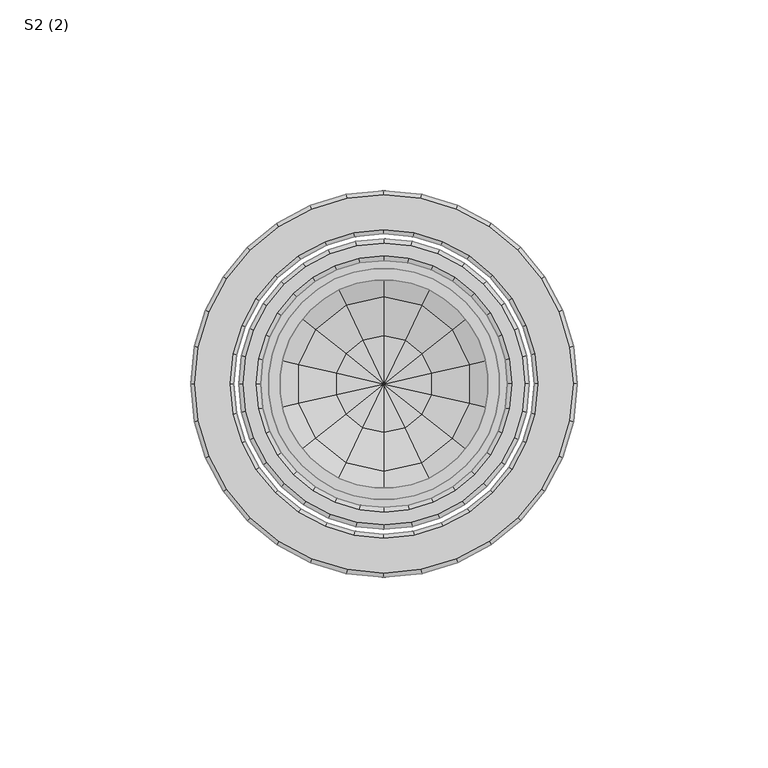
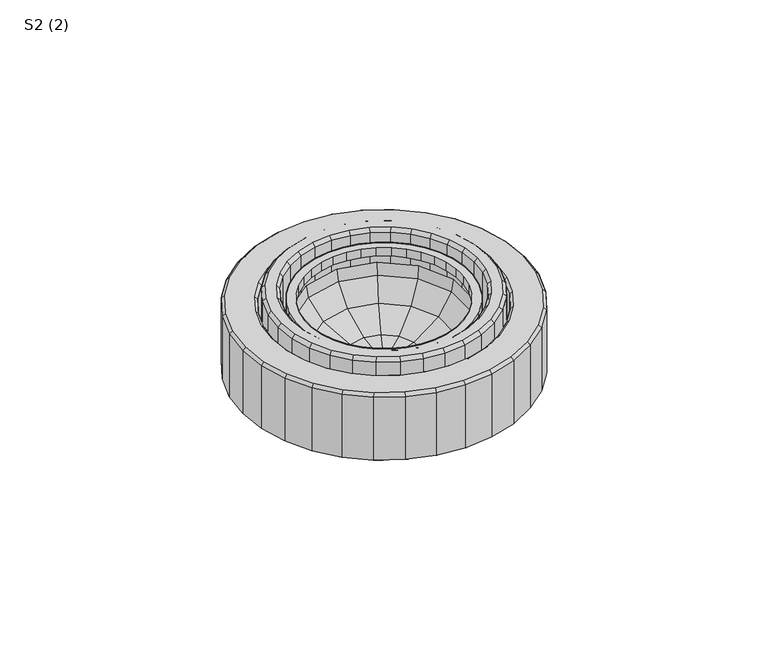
"""IFC4 building model written with IfcOpenShell, lengths in millimetres: light fixture geometry, S2 (2) : نور وابسته به سطح مخروط."""

from ifc_helpers import new_model, si_unit, origin, place, context, project, spatial, triangles, source, transform, mapped, element, save


def s2_2_7ed8d57b(model_context):
    return source(origin(), model_context, "Body", "Tessellation", [
        triangles([(30.2889727, -2.6496484, 15.3348614), (30.2889727, 1e-07, 15.3348614), (30.2889727, 1e-07, 18.4576673), (30.2889727, -2.6496484, 18.4576673), (29.3681484, -7.868873, 15.3348614), (29.3681484, -7.868873, 18.4576673), (27.5556137, -12.8478824, 15.3348614), (27.5556137, -12.8478824, 18.4576673), (24.9023263, -17.4374519, 15.3348614), (24.9023263, -17.4374519, 18.4576673), (21.5029146, -21.4956378, 15.3348614), (21.5029146, -21.4956378, 18.4576673), (17.4410903, -24.9023263, 15.3348614), (17.4410903, -24.9023263, 18.4576673), (12.8515217, -27.551977, 15.3348614), (12.8515217, -27.551977, 18.4576673), (7.8725114, -29.36451, 15.3348614), (7.8725114, -29.36451, 18.4576673), (2.6532866, -30.2853343, 15.3348614), (2.6532866, -30.2853343, 18.4576673), (-2.6460102, -30.2853343, 15.3348614), (-2.6460102, -30.2853343, 18.4576673), (-7.8688747, -29.36451, 15.3348614), (-7.8688747, -29.36451, 18.4576673), (-12.8478841, -27.551977, 15.3348614), (-12.8478841, -27.551977, 18.4576673), (-17.4338151, -24.9023263, 15.3348614), (-17.4338151, -24.9023263, 18.4576673), (-21.4992762, -21.4956378, 15.3348614), (-21.4992762, -21.4956378, 18.4576673), (-24.8986879, -17.4374519, 15.3348614), (-24.8986879, -17.4374519, 18.4576673), (-27.5519786, -12.8478824, 15.3348614), (-27.5519786, -12.8478824, 18.4576673), (-29.3645116, -7.868873, 15.3348614), (-29.3645116, -7.868873, 18.4576673), (-30.2853359, -2.6496484, 15.3348614), (-30.2853359, -2.6496484, 18.4576673), (-30.2853359, 1e-07, 15.3348614), (-30.2853359, 1e-07, 18.4576673), (-30.2853359, 2.6496486, 15.3348614), (-30.2853359, 2.6496486, 18.4576673), (-29.3645116, 7.868873, 15.3348614), (-29.3645116, 7.868873, 18.4576673), (-27.5519786, 12.8478824, 15.3348614), (-27.5519786, 12.8478824, 18.4576673), (-24.8986879, 17.4374519, 15.3348614), (-24.8986879, 17.4374519, 18.4576673), (-21.4992762, 21.4992746, 15.3348614), (-21.4992762, 21.4992746, 18.4576673), (-17.4338151, 24.905968, 15.3348614), (-17.4338151, 24.905968, 18.4576673), (-12.8478841, 27.5556154, 15.3348614), (-12.8478841, 27.5556154, 18.4576673), (-7.8688747, 29.3681501, 15.3348614), (-7.8688747, 29.3681501, 18.4576673), (-2.6460102, 30.2853343, 15.3348614), (-2.6460102, 30.2853343, 18.4576673), (2.6532866, 30.2853343, 15.3348614), (2.6532866, 30.2853343, 18.4576673), (7.8725114, 29.3681501, 15.3348614), (7.8725114, 29.3681501, 18.4576673), (12.8515217, 27.5556154, 15.3348614), (12.8515217, 27.5556154, 18.4576673), (17.4410903, 24.905968, 15.3348614), (17.4410903, 24.905968, 18.4576673), (21.5029146, 21.4992746, 15.3348614), (21.5029146, 21.4992746, 18.4576673), (24.9023263, 17.4374519, 15.3348614), (24.9023263, 17.4374519, 18.4576673), (27.5556137, 12.8478824, 15.3348614), (27.5556137, 12.8478824, 18.4576673), (29.3681484, 7.868873, 15.3348614), (29.3681484, 7.868873, 18.4576673), (30.2889727, 2.6496486, 15.3348614), (30.2889727, 2.6496486, 18.4576673), (-27.2535263, -2.3839556, 15.3348614), (-27.2535263, 1e-07, 15.3348614), (-27.2535263, 1e-07, 18.4576673), (-27.2535263, -2.3839556, 18.4576673), (-26.4273338, -7.0827138, 15.3348614), (-26.4273338, -7.0827138, 18.4576673), (-24.7967793, -11.5630945, 15.3348614), (-24.7967793, -11.5630945, 18.4576673), (-22.4091853, -15.6940718, 15.3348614), (-22.4091853, -15.6940718, 18.4576673), (-19.3446183, -19.3482567, 15.3348614), (-19.3446183, -19.3482567, 18.4576673), (-15.6940718, -22.4128237, 15.3348614), (-15.6940718, -22.4128237, 18.4576673), (-11.5630962, -24.7967776, 15.3348614), (-11.5630962, -24.7967776, 18.4576673), (-7.0790758, -26.4273321, 15.3348614), (-7.0790758, -26.4273321, 18.4576673), (-2.383957, -27.2571663, 15.3348614), (-2.383957, -27.2571663, 18.4576673), (2.3875938, -27.2571663, 15.3348614), (2.3875938, -27.2571663, 18.4576673), (7.0863522, -26.4273321, 15.3348614), (7.0863522, -26.4273321, 18.4576673), (11.5630937, -24.7967776, 15.3348614), (11.5630937, -24.7967776, 18.4576673), (15.6977103, -22.4128237, 15.3348614), (15.6977103, -22.4128237, 18.4576673), (19.3518952, -19.3482567, 15.3348614), (19.3518952, -19.3482567, 18.4576673), (22.4164604, -15.6940718, 15.3348614), (22.4164604, -15.6940718, 18.4576673), (24.800416, -11.5630945, 15.3348614), (24.800416, -11.5630945, 18.4576673), (26.4273305, -7.0827138, 15.3348614), (26.4273305, -7.0827138, 18.4576673), (27.2608048, -2.3839556, 15.3348614), (27.2608048, -2.3839556, 18.4576673), (27.2608048, 1e-07, 15.3348614), (27.2608048, 1e-07, 18.4576673), (27.2608048, 2.3839556, 15.3348614), (27.2608048, 2.3839556, 18.4576673), (26.4273305, 7.0827138, 15.3348614), (26.4273305, 7.0827138, 18.4576673), (24.800416, 11.5630945, 15.3348614), (24.800416, 11.5630945, 18.4576673), (22.4164604, 15.6940718, 15.3348614), (22.4164604, 15.6940718, 18.4576673), (19.3518952, 19.3482567, 15.3348614), (19.3518952, 19.3482567, 18.4576673), (15.6977103, 22.4128237, 15.3348614), (15.6977103, 22.4128237, 18.4576673), (11.5630937, 24.8004177, 15.3348614), (11.5630937, 24.8004177, 18.4576673), (7.0863522, 26.4309705, 15.3348614), (7.0863522, 26.4309705, 18.4576673), (2.3875938, 27.2571663, 15.3348614), (2.3875938, 27.2571663, 18.4576673), (-2.383957, 27.2571663, 15.3348614), (-2.383957, 27.2571663, 18.4576673), (-7.0790758, 26.4309705, 15.3348614), (-7.0790758, 26.4309705, 18.4576673), (-11.5630962, 24.8004177, 15.3348614), (-11.5630962, 24.8004177, 18.4576673), (-15.6940718, 22.4128237, 15.3348614), (-15.6940718, 22.4128237, 18.4576673), (-19.3446183, 19.3482567, 15.3348614), (-19.3446183, 19.3482567, 18.4576673), (-22.4091853, 15.6940718, 15.3348614), (-22.4091853, 15.6940718, 18.4576673), (-24.7967793, 11.5630945, 15.3348614), (-24.7967793, 11.5630945, 18.4576673), (-26.4273338, 7.0827138, 15.3348614), (-26.4273338, 7.0827138, 18.4576673), (-27.2535263, 2.3839556, 15.3348614), (-27.2535263, 2.3839556, 18.4576673), (0.0036383, -38.1323743, 20.7179947), (0.0036383, -38.1323743, -8.0242621), (7.4430357, -37.400807, -8.0242621), (7.4430357, -37.400807, 20.7179947), (0.0036383, -32.3708408, -8.0242621), (0.0036383, -32.3708408, 20.7179947), (6.3183913, -31.7484656, 20.7179947), (6.3183913, -31.7484656, -8.0242621), (0.0036383, -33.6010377, 21.9445139), (0.0036383, -36.9058176, 21.9445139), (7.2028203, -36.1960907, 21.9445139), (6.5586063, -32.956822, 21.9445139), (14.5949025, -35.2315889, -8.0242621), (14.5949025, -35.2315889, 20.7179947), (12.3892886, -29.9068137, 20.7179947), (12.3892886, -29.9068137, -8.0242621), (14.1253902, -34.0960238, 21.9445139), (12.8624402, -31.0423787, 21.9445139), (21.189907, -31.7084315, -8.0242621), (21.189907, -31.7084315, 20.7179947), (17.9870341, -26.9150398, 20.7179947), (17.9870341, -26.9150398, -8.0242621), (20.5056556, -30.6856953, 21.9445139), (18.6712855, -27.937776, 21.9445139), (26.9659941, -26.9659958, -8.0242621), (26.9659941, -26.9659958, 20.7179947), (22.8932529, -22.8896128, 20.7179947), (22.8932529, -22.8896128, -8.0242621), (26.0961242, -26.0961258, 21.9445139), (23.7631229, -23.7594861, 21.9445139), (31.7084298, -21.1862669, -8.0242621), (31.7084298, -21.1862669, 20.7179947), (26.9186799, -17.9833973, 20.7179947), (26.9186799, -17.9833973, -8.0242621), (30.6856936, -20.5020188, 21.9445139), (27.9414145, -18.6676471, 21.9445139), (35.2352273, -14.5949042, -8.0242621), (35.2352273, -14.5949042, 20.7179947), (29.9104521, -12.3892903, 20.7179947), (29.9104521, -12.3892903, -8.0242621), (34.0960222, -14.1217534, 21.9445139), (31.0460172, -12.8588018, 21.9445139), (37.4044421, -7.4393973, -8.0242621), (37.4044421, -7.4393973, 20.7179947), (31.752104, -6.3147529, 20.7179947), (31.752104, -6.3147529, -8.0242621), (36.196089, -7.1991819, 21.9445139), (32.9568204, -6.5549679, 21.9445139), (38.1360061, 1e-07, -8.0242621), (38.1360061, 1e-07, 20.7179947), (32.3744792, 1e-07, 20.7179947), (32.3744792, 1e-07, -8.0242621), (36.9058192, 1e-07, 21.9445139), (33.6046761, 1e-07, 21.9445139), (37.4044421, 7.4393973, -8.0242621), (37.4044421, 7.4393973, 20.7179947), (31.752104, 6.3147529, 20.7179947), (31.752104, 6.3147529, -8.0242621), (36.196089, 7.1991819, 21.9445139), (32.9568204, 6.5549679, 21.9445139), (35.2352273, 14.5949042, -8.0242621), (35.2352273, 14.5949042, 20.7179947), (29.9104521, 12.3892903, 20.7179947), (29.9104521, 12.3892903, -8.0242621), (34.0960222, 14.1217534, 21.9445139), (31.0460172, 12.8588018, 21.9445139), (31.7084298, 21.1862669, -8.0242621), (31.7084298, 21.1862669, 20.7179947), (26.9186799, 17.9833973, 20.7179947), (26.9186799, 17.9833973, -8.0242621), (30.6856936, 20.5020188, 21.9445139), (27.9414145, 18.6676471, 21.9445139), (26.9659941, 26.9659958, -8.0242621), (26.9659941, 26.9659958, 20.7179947), (22.8932529, 22.8896128, 20.7179947), (22.8932529, 22.8896128, -8.0242621), (26.0961242, 26.0961258, 21.9445139), (23.7631229, 23.7594861, 21.9445139), (21.189907, 31.7084315, -8.0242621), (21.189907, 31.7084315, 20.7179947), (17.9870341, 26.9150398, 20.7179947), (17.9870341, 26.9150398, -8.0242621), (20.5056556, 30.6856953, 21.9445139), (18.6712855, 27.937776, 21.9445139), (14.5949025, 35.2315889, -8.0242621), (14.5949025, 35.2315889, 20.7179947), (12.3892886, 29.9068137, 20.7179947), (12.3892886, 29.9068137, -8.0242621), (14.1253902, 34.0960238, 21.9445139), (12.8624402, 31.0423787, 21.9445139), (7.4430357, 37.400807, -8.0242621), (7.4430357, 37.400807, 20.7179947), (6.3183913, 31.7484656, 20.7179947), (6.3183913, 31.7484656, -8.0242621), (7.2028203, 36.1960907, 21.9445139), (6.5586063, 32.956822, 21.9445139), (0.0036383, 38.1360078, -8.0242621), (0.0036383, 38.1360078, 20.7179947), (0.0036383, 32.3708408, 20.7179947), (0.0036383, 32.3708408, -8.0242621), (0.0036383, 36.9058176, 21.9445139), (0.0036383, 33.6010377, 21.9445139), (-7.4357589, 37.400807, -8.0242621), (-7.4357589, 37.400807, 20.7179947), (-6.3147541, 31.7484656, 20.7179947), (-6.3147541, 31.7484656, -8.0242621), (-7.1955435, 36.1960907, 21.9445139), (-6.5513303, 32.956822, 21.9445139), (-14.5912657, 35.2315889, -8.0242621), (-14.5912657, 35.2315889, 20.7179947), (-12.3856519, 29.9068137, 20.7179947), (-12.3856519, 29.9068137, -8.0242621), (-14.1217534, 34.0960238, 21.9445139), (-12.8551634, 31.0423787, 21.9445139), (-21.1826302, 31.7084315, -8.0242621), (-21.1826302, 31.7084315, 20.7179947), (-17.983399, 26.9150398, 20.7179947), (-17.983399, 26.9150398, -8.0242621), (-20.5020205, 30.6856953, 21.9445139), (-18.664007, 27.937776, 21.9445139), (-26.962359, 26.9659958, -8.0242621), (-26.962359, 26.9659958, 20.7179947), (-22.8896145, 22.8896128, 20.7179947), (-22.8896145, 22.8896128, -8.0242621), (-26.0924857, 26.0961258, 21.9445139), (-23.755846, 23.7594861, 21.9445139), (-31.7047931, 21.1862669, -8.0242621), (-31.7047931, 21.1862669, 20.7179947), (-26.9150415, 17.9833973, 20.7179947), (-26.9150415, 17.9833973, -8.0242621), (-30.6820568, 20.5020188, 21.9445139), (-27.9377777, 18.6676471, 21.9445139), (-35.2279505, 14.5949042, -8.0242621), (-35.2279505, 14.5949042, 20.7179947), (-29.9068154, 12.3892903, 20.7179947), (-29.9068154, 12.3892903, -8.0242621), (-34.0923854, 14.1217534, 21.9445139), (-31.0423804, 12.8588018, 21.9445139), (-37.4008087, 7.4393973, -8.0242621), (-37.4008087, 7.4393973, 20.7179947), (-31.7484672, 6.3147529, 20.7179947), (-31.7484672, 6.3147529, -8.0242621), (-36.1924522, 7.1991819, 21.9445139), (-32.9531836, 6.5549679, 21.9445139), (-38.132376, 1e-07, -8.0242621), (-38.132376, 1e-07, 20.7179947), (-32.3708425, 1e-07, 20.7179947), (-32.3708425, 1e-07, -8.0242621), (-36.9021792, 1e-07, 21.9445139), (-33.601036, 1e-07, 21.9445139), (-37.4008087, -7.4393973, -8.0242621), (-37.4008087, -7.4393973, 20.7179947), (-31.7484672, -6.3147529, 20.7179947), (-31.7484672, -6.3147529, -8.0242621), (-36.1924522, -7.1991819, 21.9445139), (-32.9531836, -6.5549679, 21.9445139), (-35.2279505, -14.5949042, -8.0242621), (-35.2279505, -14.5949042, 20.7179947), (-29.9068154, -12.3892903, 20.7179947), (-29.9068154, -12.3892903, -8.0242621), (-34.0923854, -14.1217534, 21.9445139), (-31.0423804, -12.8588018, 21.9445139), (-31.7047931, -21.1862669, -8.0242621), (-31.7047931, -21.1862669, 20.7179947), (-26.9150415, -17.9833973, 20.7179947), (-26.9150415, -17.9833973, -8.0242621), (-30.6820568, -20.5020188, 21.9445139), (-27.9377777, -18.6676471, 21.9445139), (-26.962359, -26.9659958, -8.0242621), (-26.962359, -26.9659958, 20.7179947), (-22.8896145, -22.8896128, 20.7179947), (-22.8896145, -22.8896128, -8.0242621), (-26.0924857, -26.0961258, 21.9445139), (-23.755846, -23.7594861, 21.9445139), (-21.1826302, -31.7084315, -8.0242621), (-21.1826302, -31.7084315, 20.7179947), (-17.983399, -26.9150398, 20.7179947), (-17.983399, -26.9150398, -8.0242621), (-20.5020205, -30.6856953, 21.9445139), (-18.664007, -27.937776, 21.9445139), (-14.5912657, -35.2315889, -8.0242621), (-14.5912657, -35.2315889, 20.7179947), (-12.3856519, -29.9068137, 20.7179947), (-12.3856519, -29.9068137, -8.0242621), (-14.1217534, -34.0960238, 21.9445139), (-12.8551634, -31.0423787, 21.9445139), (-7.4357589, -37.400807, -8.0242621), (-7.4357589, -37.400807, 20.7179947), (-6.3147541, -31.7484656, 20.7179947), (-6.3147541, -31.7484656, -8.0242621), (-7.1955435, -36.1960907, 21.9445139), (-6.5513303, -32.956822, 21.9445139), (-1.4e-06, -50.7000047, 16.2595407), (-1.4e-06, -50.7000047, -7.5), (9.8925051, -49.7282228, -7.5), (9.8925051, -49.7282228, 16.2595407), (-1.4e-06, -49.600837, -8.0242621), (-1.4e-06, -40.4035011, -8.0242621), (7.8834308, -39.6282563, -8.0242621), (9.677766, -48.6472522, -8.0242621), (-1.4e-06, -39.3407242, -6.9685173), (-1.4e-06, -39.3407242, 16.2595407), (7.6759718, -38.5873231, 16.2595407), (7.6759718, -38.5873231, -6.9685173), (-1.4e-06, -40.4035011, 17.3186176), (-1.4e-06, -49.600837, 17.3186176), (9.677766, -48.6472522, 17.3186176), (7.8834308, -39.6282563, 17.3186176), (19.4028495, -46.8419976, -7.5), (19.4028495, -46.8419976, 16.2595407), (15.4611341, -37.3280123, -8.0242621), (18.9806531, -45.8265415, -8.0242621), (15.0571363, -36.3453135, 16.2595407), (15.0571363, -36.3453135, -6.9685173), (18.9806531, -45.8265415, 17.3186176), (15.4611341, -37.3280123, 17.3186176), (28.1670688, -42.1578013, -7.5), (28.1670688, -42.1578013, 16.2595407), (22.4492177, -33.5973943, -8.0242621), (27.5556137, -41.2406138, -8.0242621), (21.8559581, -32.7129674, 16.2595407), (21.8559581, -32.7129674, -6.9685173), (27.5556137, -41.2406138, 17.3186176), (22.4492177, -33.5973943, 17.3186176), (35.8503257, -35.8503241, -7.5), (35.8503257, -35.8503241, 16.2595407), (28.5710698, -28.5710715, -8.0242621), (35.0750842, -35.0714458, -8.0242621), (27.8176654, -27.8176671, 16.2595407), (27.8176654, -27.8176671, -6.9685173), (35.0750842, -35.0714458, 17.3186176), (28.5710698, -28.5710715, 17.3186176), (42.1577997, -28.1670704, -7.5), (42.1577997, -28.1670704, 16.2595407), (33.597396, -22.4492194, -8.0242621), (41.2406122, -27.5556154, -8.0242621), (32.7129657, -21.8559597, 16.2595407), (32.7129657, -21.8559597, -6.9685173), (41.2406122, -27.5556154, 17.3186176), (33.597396, -22.4492194, 17.3186176), (46.841996, -19.4028511, -7.5), (46.841996, -19.4028511, 16.2595407), (37.3280107, -15.4611357, -8.0242621), (45.8265399, -18.9806547, -8.0242621), (36.3489519, -15.0571363, 16.2595407), (36.3489519, -15.0571363, -6.9685173), (45.8265399, -18.9806547, 17.3186176), (37.3280107, -15.4611357, 17.3186176), (49.7282212, -9.8925067, -7.5), (49.7282212, -9.8925067, 16.2595407), (39.6282547, -7.8834316, -8.0242621), (48.6472505, -9.6777676, -8.0242621), (38.5873214, -7.6759727, 16.2595407), (38.5873214, -7.6759727, -6.9685173), (48.6472505, -9.6777676, 17.3186176), (39.6282547, -7.8834316, 17.3186176), (50.7000031, 1e-07, -7.5), (50.7000031, 1e-07, 16.2595407), (40.4071395, 1e-07, -8.0242621), (49.6008354, 1e-07, -8.0242621), (39.3407258, 1e-07, 16.2595407), (39.3407258, 1e-07, -6.9685173), (49.6008354, 1e-07, 17.3186176), (40.4071395, 1e-07, 17.3186176), (49.7282212, 9.8925067, -7.5), (49.7282212, 9.8925067, 16.2595407), (39.6282547, 7.8834316, -8.0242621), (48.6472505, 9.6777676, -8.0242621), (38.5873214, 7.6759727, 16.2595407), (38.5873214, 7.6759727, -6.9685173), (48.6472505, 9.6777676, 17.3186176), (39.6282547, 7.8834316, 17.3186176), (46.841996, 19.4028511, -7.5), (46.841996, 19.4028511, 16.2595407), (37.3280107, 15.4611357, -8.0242621), (45.8265399, 18.9806547, -8.0242621), (36.3489519, 15.0571363, 16.2595407), (36.3489519, 15.0571363, -6.9685173), (45.8265399, 18.9806547, 17.3186176), (37.3280107, 15.4611357, 17.3186176), (42.1577997, 28.1670704, -7.5), (42.1577997, 28.1670704, 16.2595407), (33.597396, 22.4492194, -8.0242621), (41.2406122, 27.5556154, -8.0242621), (32.7129657, 21.8559597, 16.2595407), (32.7129657, 21.8559597, -6.9685173), (41.2406122, 27.5556154, 17.3186176), (33.597396, 22.4492194, 17.3186176), (35.8503257, 35.8503274, -7.5), (35.8503257, 35.8503274, 16.2595407), (28.5710698, 28.5710715, -8.0242621), (35.0750842, 35.0750859, -8.0242621), (27.8176654, 27.8176671, 16.2595407), (27.8176654, 27.8176671, -6.9685173), (35.0750842, 35.0750859, 17.3186176), (28.5710698, 28.5710715, 17.3186176), (28.1670688, 42.1578013, -7.5), (28.1670688, 42.1578013, 16.2595407), (22.4492177, 33.5973976, -8.0242621), (27.5556137, 41.2406138, -8.0242621), (21.8559581, 32.7129674, 16.2595407), (21.8559581, 32.7129674, -6.9685173), (27.5556137, 41.2406138, 17.3186176), (22.4492177, 33.5973976, 17.3186176), (19.4028495, 46.8419976, -7.5), (19.4028495, 46.8419976, 16.2595407), (15.4611341, 37.3316524, -8.0242621), (18.9806531, 45.8265415, -8.0242621), (15.0571363, 36.3489536, 16.2595407), (15.0571363, 36.3489536, -6.9685173), (18.9806531, 45.8265415, 17.3186176), (15.4611341, 37.3316524, 17.3186176), (9.8925051, 49.7282228, -7.5), (9.8925051, 49.7282228, 16.2595407), (7.8834308, 39.6282563, -8.0242621), (9.677766, 48.6472522, -8.0242621), (7.6759718, 38.5873231, 16.2595407), (7.6759718, 38.5873231, -6.9685173), (9.677766, 48.6472522, 17.3186176), (7.8834308, 39.6282563, 17.3186176), (-1.4e-06, 50.7000047, -7.5), (-1.4e-06, 50.7000047, 16.2595407), (-1.4e-06, 40.4071412, -8.0242621), (-1.4e-06, 49.600837, -8.0242621), (-1.4e-06, 39.3407242, 16.2595407), (-1.4e-06, 39.3407242, -6.9685173), (-1.4e-06, 49.600837, 17.3186176), (-1.4e-06, 40.4071412, 17.3186176), (-9.8925075, 49.7282228, -7.5), (-9.8925075, 49.7282228, 16.2595407), (-7.8834333, 39.6282563, -8.0242621), (-9.6777684, 48.6472522, -8.0242621), (-7.6759743, 38.5873231, 16.2595407), (-7.6759743, 38.5873231, -6.9685173), (-9.6777684, 48.6472522, 17.3186176), (-7.8834333, 39.6282563, 17.3186176), (-19.4028528, 46.8419976, -7.5), (-19.4028528, 46.8419976, 16.2595407), (-15.4611374, 37.3316524, -8.0242621), (-18.9806547, 45.8265415, -8.0242621), (-15.057138, 36.3489536, 16.2595407), (-15.057138, 36.3489536, -6.9685173), (-18.9806547, 45.8265415, 17.3186176), (-15.4611374, 37.3316524, 17.3186176), (-28.1670721, 42.1578013, -7.5), (-28.1670721, 42.1578013, 16.2595407), (-22.449221, 33.5973976, -8.0242621), (-27.555617, 41.2406138, -8.0242621), (-21.8559614, 32.7129674, 16.2595407), (-21.8559614, 32.7129674, -6.9685173), (-27.555617, 41.2406138, 17.3186176), (-22.449221, 33.5973976, 17.3186176), (-35.8503257, 35.8503274, -7.5), (-35.8503257, 35.8503274, 16.2595407), (-28.5710731, 28.5710715, -8.0242621), (-35.0750875, 35.0750859, -8.0242621), (-27.8176687, 27.8176671, 16.2595407), (-27.8176687, 27.8176671, -6.9685173), (-35.0750875, 35.0750859, 17.3186176), (-28.5710731, 28.5710715, 17.3186176), (-42.157803, 28.1670704, -7.5), (-42.157803, 28.1670704, 16.2595407), (-33.597396, 22.4492194, -8.0242621), (-41.2406155, 27.5556154, -8.0242621), (-32.712969, 21.8559597, 16.2595407), (-32.712969, 21.8559597, -6.9685173), (-41.2406155, 27.5556154, 17.3186176), (-33.597396, 22.4492194, 17.3186176), (-46.8419993, 19.4028511, -7.5), (-46.8419993, 19.4028511, 16.2595407), (-37.328014, 15.4611357, -8.0242621), (-45.8265432, 18.9806547, -8.0242621), (-36.3489552, 15.0571363, 16.2595407), (-36.3489552, 15.0571363, -6.9685173), (-45.8265432, 18.9806547, 17.3186176), (-37.328014, 15.4611357, 17.3186176), (-49.7282245, 9.8925067, -7.5), (-49.7282245, 9.8925067, 16.2595407), (-39.628258, 7.8834316, -8.0242621), (-48.6472538, 9.6777676, -8.0242621), (-38.5873247, 7.6759727, 16.2595407), (-38.5873247, 7.6759727, -6.9685173), (-48.6472538, 9.6777676, 17.3186176), (-39.628258, 7.8834316, 17.3186176), (-50.7000031, 1e-07, -7.5), (-50.7000031, 1e-07, 16.2595407), (-40.4071395, 1e-07, -8.0242621), (-49.6008387, 1e-07, -8.0242621), (-39.3407258, 1e-07, 16.2595407), (-39.3407258, 1e-07, -6.9685173), (-49.6008387, 1e-07, 17.3186176), (-40.4071395, 1e-07, 17.3186176), (-49.7282245, -9.8925067, -7.5), (-49.7282245, -9.8925067, 16.2595407), (-39.628258, -7.8834316, -8.0242621), (-48.6472538, -9.6777676, -8.0242621), (-38.5873247, -7.6759727, 16.2595407), (-38.5873247, -7.6759727, -6.9685173), (-48.6472538, -9.6777676, 17.3186176), (-39.628258, -7.8834316, 17.3186176), (-46.8419993, -19.4028511, -7.5), (-46.8419993, -19.4028511, 16.2595407), (-37.328014, -15.4611357, -8.0242621), (-45.8265432, -18.9806547, -8.0242621), (-36.3489552, -15.0571363, 16.2595407), (-36.3489552, -15.0571363, -6.9685173), (-45.8265432, -18.9806547, 17.3186176), (-37.328014, -15.4611357, 17.3186176), (-42.157803, -28.1670704, -7.5), (-42.157803, -28.1670704, 16.2595407), (-33.597396, -22.4492194, -8.0242621), (-41.2406155, -27.5556154, -8.0242621), (-32.712969, -21.8559597, 16.2595407), (-32.712969, -21.8559597, -6.9685173), (-41.2406155, -27.5556154, 17.3186176), (-33.597396, -22.4492194, 17.3186176), (-35.8503257, -35.8503241, -7.5), (-35.8503257, -35.8503241, 16.2595407), (-28.5710731, -28.5710715, -8.0242621), (-35.0750875, -35.0714458, -8.0242621), (-27.8176687, -27.8176671, 16.2595407), (-27.8176687, -27.8176671, -6.9685173), (-35.0750875, -35.0714458, 17.3186176), (-28.5710731, -28.5710715, 17.3186176), (-28.1670721, -42.1578013, -7.5), (-28.1670721, -42.1578013, 16.2595407), (-22.449221, -33.5973943, -8.0242621), (-27.555617, -41.2406138, -8.0242621), (-21.8559614, -32.7129674, 16.2595407), (-21.8559614, -32.7129674, -6.9685173), (-27.555617, -41.2406138, 17.3186176), (-22.449221, -33.5973943, 17.3186176), (-19.4028528, -46.8419976, -7.5), (-19.4028528, -46.8419976, 16.2595407), (-15.4611374, -37.3280123, -8.0242621), (-18.9806547, -45.8265415, -8.0242621), (-15.057138, -36.3453135, 16.2595407), (-15.057138, -36.3453135, -6.9685173), (-18.9806547, -45.8265415, 17.3186176), (-15.4611374, -37.3280123, 17.3186176), (-9.8925075, -49.7282228, -7.5), (-9.8925075, -49.7282228, 16.2595407), (-7.8834333, -39.6282563, -8.0242621), (-9.6777684, -48.6472522, -8.0242621), (-7.6759743, -38.5873231, 16.2595407), (-7.6759743, -38.5873231, -6.9685173), (-9.6777684, -48.6472522, 17.3186176), (-7.8834333, -39.6282563, 17.3186176)], [[1, 2, 3], [1, 3, 4], [5, 1, 4], [5, 4, 6], [7, 5, 6], [7, 6, 8], [9, 7, 8], [9, 8, 10], [11, 9, 10], [11, 10, 12], [13, 11, 12], [13, 12, 14], [15, 13, 14], [15, 14, 16], [17, 15, 16], [17, 16, 18], [19, 17, 18], [19, 18, 20], [21, 19, 20], [21, 20, 22], [23, 21, 22], [23, 22, 24], [25, 23, 24], [25, 24, 26], [27, 25, 26], [27, 26, 28], [29, 27, 28], [29, 28, 30], [31, 29, 30], [31, 30, 32], [33, 31, 32], [33, 32, 34], [35, 33, 34], [35, 34, 36], [37, 35, 36], [37, 36, 38], [39, 37, 38], [39, 38, 40], [41, 39, 40], [41, 40, 42], [43, 41, 42], [43, 42, 44], [45, 43, 44], [45, 44, 46], [47, 45, 46], [47, 46, 48], [49, 47, 48], [49, 48, 50], [51, 49, 50], [51, 50, 52], [53, 51, 52], [53, 52, 54], [55, 53, 54], [55, 54, 56], [57, 55, 56], [57, 56, 58], [59, 57, 58], [59, 58, 60], [61, 59, 60], [61, 60, 62], [63, 61, 62], [63, 62, 64], [65, 63, 64], [65, 64, 66], [67, 65, 66], [67, 66, 68], [69, 67, 68], [69, 68, 70], [71, 69, 70], [71, 70, 72], [73, 71, 72], [73, 72, 74], [75, 73, 74], [75, 74, 76], [2, 75, 76], [2, 76, 3], [77, 78, 79], [77, 79, 80], [81, 77, 80], [81, 80, 82], [83, 81, 82], [83, 82, 84], [85, 83, 84], [85, 84, 86], [87, 85, 86], [87, 86, 88], [89, 87, 88], [89, 88, 90], [91, 89, 90], [91, 90, 92], [93, 91, 92], [93, 92, 94], [95, 93, 94], [95, 94, 96], [97, 95, 96], [97, 96, 98], [99, 97, 98], [99, 98, 100], [101, 99, 100], [101, 100, 102], [103, 101, 102], [103, 102, 104], [105, 103, 104], [105, 104, 106], [107, 105, 106], [107, 106, 108], [109, 107, 108], [109, 108, 110], [111, 109, 110], [111, 110, 112], [113, 111, 112], [113, 112, 114], [115, 113, 114], [115, 114, 116], [117, 115, 116], [117, 116, 118], [119, 117, 118], [119, 118, 120], [121, 119, 120], [121, 120, 122], [123, 121, 122], [123, 122, 124], [125, 123, 124], [125, 124, 126], [127, 125, 126], [127, 126, 128], [129, 127, 128], [129, 128, 130], [131, 129, 130], [131, 130, 132], [133, 131, 132], [133, 132, 134], [135, 133, 134], [135, 134, 136], [137, 135, 136], [137, 136, 138], [139, 137, 138], [139, 138, 140], [141, 139, 140], [141, 140, 142], [143, 141, 142], [143, 142, 144], [145, 143, 144], [145, 144, 146], [147, 145, 146], [147, 146, 148], [149, 147, 148], [149, 148, 150], [151, 149, 150], [151, 150, 152], [78, 151, 152], [78, 152, 79], [6, 4, 76], [6, 76, 74], [8, 6, 74], [8, 74, 72], [114, 10, 8], [114, 8, 72], [118, 114, 72], [118, 72, 70], [120, 118, 70], [120, 70, 122], [122, 70, 124], [70, 68, 124], [126, 124, 68], [126, 68, 66], [128, 126, 66], [128, 66, 64], [130, 128, 64], [130, 64, 62], [132, 130, 62], [132, 62, 60], [134, 132, 60], [134, 60, 58], [136, 134, 58], [136, 58, 138], [138, 58, 56], [138, 56, 140], [140, 56, 54], [140, 54, 142], [142, 54, 52], [142, 52, 144], [144, 52, 50], [144, 50, 146], [146, 50, 48], [146, 48, 148], [150, 148, 46], [148, 48, 46], [152, 150, 46], [152, 46, 34], [44, 42, 38], [44, 38, 36], [46, 44, 36], [46, 36, 34], [80, 152, 34], [80, 34, 82], [10, 114, 112], [10, 112, 110], [12, 10, 108], [10, 110, 108], [12, 108, 106], [12, 106, 14], [14, 106, 104], [14, 104, 16], [16, 104, 102], [16, 102, 18], [18, 102, 100], [18, 100, 20], [20, 100, 98], [20, 98, 22], [22, 98, 96], [22, 96, 94], [24, 22, 94], [24, 94, 92], [26, 24, 92], [26, 92, 90], [28, 26, 90], [28, 90, 88], [30, 28, 88], [30, 88, 86], [32, 30, 86], [32, 86, 84], [32, 84, 34], [84, 82, 34], [73, 75, 1], [73, 1, 5], [71, 73, 5], [71, 5, 7], [117, 69, 71], [117, 71, 7], [113, 117, 7], [113, 7, 9], [111, 113, 9], [111, 9, 109], [109, 9, 107], [9, 11, 107], [105, 107, 11], [105, 11, 13], [103, 105, 13], [103, 13, 15], [101, 103, 15], [101, 15, 17], [99, 101, 17], [99, 17, 19], [97, 99, 19], [97, 19, 21], [95, 97, 21], [95, 21, 93], [93, 21, 23], [93, 23, 91], [91, 23, 25], [91, 25, 89], [89, 25, 27], [89, 27, 87], [87, 27, 29], [87, 29, 85], [85, 29, 31], [85, 31, 83], [81, 83, 33], [83, 31, 33], [77, 81, 33], [77, 33, 45], [35, 37, 41], [35, 41, 43], [33, 35, 43], [33, 43, 45], [151, 77, 45], [151, 45, 149], [69, 117, 119], [69, 119, 121], [67, 69, 123], [69, 121, 123], [67, 123, 125], [67, 125, 65], [65, 125, 127], [65, 127, 63], [63, 127, 129], [63, 129, 61], [61, 129, 131], [61, 131, 59], [59, 131, 133], [59, 133, 57], [57, 133, 135], [57, 135, 137], [55, 57, 137], [55, 137, 139], [53, 55, 139], [53, 139, 141], [51, 53, 141], [51, 141, 143], [49, 51, 143], [49, 143, 145], [47, 49, 145], [47, 145, 147], [47, 147, 45], [147, 149, 45], [153, 154, 155], [153, 155, 156], [157, 158, 159], [157, 159, 160], [161, 162, 163], [161, 163, 164], [156, 155, 165], [156, 165, 166], [160, 159, 167], [160, 167, 168], [164, 163, 169], [164, 169, 170], [166, 165, 171], [166, 171, 172], [168, 167, 173], [168, 173, 174], [170, 169, 175], [170, 175, 176], [172, 171, 177], [172, 177, 178], [174, 173, 179], [174, 179, 180], [176, 175, 181], [176, 181, 182], [178, 177, 183], [178, 183, 184], [180, 179, 185], [180, 185, 186], [182, 181, 187], [182, 187, 188], [184, 183, 189], [184, 189, 190], [186, 185, 191], [186, 191, 192], [188, 187, 193], [188, 193, 194], [190, 189, 195], [190, 195, 196], [192, 191, 197], [192, 197, 198], [194, 193, 199], [194, 199, 200], [196, 195, 201], [196, 201, 202], [198, 197, 203], [198, 203, 204], [200, 199, 205], [200, 205, 206], [202, 201, 207], [202, 207, 208], [204, 203, 209], [204, 209, 210], [206, 205, 211], [206, 211, 212], [208, 207, 213], [208, 213, 214], [210, 209, 215], [210, 215, 216], [212, 211, 217], [212, 217, 218], [214, 213, 219], [214, 219, 220], [216, 215, 221], [216, 221, 222], [218, 217, 223], [218, 223, 224], [220, 219, 225], [220, 225, 226], [222, 221, 227], [222, 227, 228], [224, 223, 229], [224, 229, 230], [226, 225, 231], [226, 231, 232], [228, 227, 233], [228, 233, 234], [230, 229, 235], [230, 235, 236], [232, 231, 237], [232, 237, 238], [234, 233, 239], [234, 239, 240], [236, 235, 241], [236, 241, 242], [238, 237, 243], [238, 243, 244], [240, 239, 245], [240, 245, 246], [242, 241, 247], [242, 247, 248], [244, 243, 249], [244, 249, 250], [246, 245, 251], [246, 251, 252], [248, 247, 253], [248, 253, 254], [250, 249, 255], [250, 255, 256], [252, 251, 257], [252, 257, 258], [254, 253, 259], [254, 259, 260], [256, 255, 261], [256, 261, 262], [258, 257, 263], [258, 263, 264], [260, 259, 265], [260, 265, 266], [262, 261, 267], [262, 267, 268], [264, 263, 269], [264, 269, 270], [266, 265, 271], [266, 271, 272], [268, 267, 273], [268, 273, 274], [270, 269, 275], [270, 275, 276], [272, 271, 277], [272, 277, 278], [274, 273, 279], [274, 279, 280], [276, 275, 281], [276, 281, 282], [278, 277, 283], [278, 283, 284], [280, 279, 285], [280, 285, 286], [282, 281, 287], [282, 287, 288], [284, 283, 289], [284, 289, 290], [286, 285, 291], [286, 291, 292], [288, 287, 293], [288, 293, 294], [290, 289, 295], [290, 295, 296], [292, 291, 297], [292, 297, 298], [294, 293, 299], [294, 299, 300], [296, 295, 301], [296, 301, 302], [298, 297, 303], [298, 303, 304], [300, 299, 305], [300, 305, 306], [302, 301, 307], [302, 307, 308], [304, 303, 309], [304, 309, 310], [306, 305, 311], [306, 311, 312], [308, 307, 313], [308, 313, 314], [310, 309, 315], [310, 315, 316], [312, 311, 317], [312, 317, 318], [314, 313, 319], [314, 319, 320], [316, 315, 321], [316, 321, 322], [318, 317, 323], [318, 323, 324], [320, 319, 325], [320, 325, 326], [322, 321, 327], [322, 327, 328], [324, 323, 329], [324, 329, 330], [326, 325, 331], [326, 331, 332], [328, 327, 333], [328, 333, 334], [330, 329, 335], [330, 335, 336], [332, 331, 337], [332, 337, 338], [334, 333, 339], [334, 339, 340], [336, 335, 341], [336, 341, 342], [338, 337, 343], [338, 343, 344], [340, 339, 154], [340, 154, 153], [342, 341, 158], [342, 158, 157], [344, 343, 162], [344, 162, 161], [168, 174, 157], [174, 180, 157], [180, 186, 192], [180, 192, 204], [192, 198, 204], [204, 210, 216], [204, 216, 228], [216, 222, 228], [228, 234, 240], [228, 240, 252], [240, 246, 252], [204, 228, 252], [204, 252, 157], [252, 258, 264], [252, 264, 276], [264, 270, 276], [276, 282, 288], [276, 288, 300], [288, 294, 300], [252, 276, 300], [252, 300, 157], [300, 306, 312], [300, 312, 324], [312, 318, 324], [324, 330, 336], [324, 336, 157], [336, 342, 157], [300, 324, 157], [180, 204, 157], [160, 168, 157], [339, 333, 155], [333, 327, 155], [327, 321, 315], [327, 315, 303], [315, 309, 303], [303, 297, 291], [303, 291, 279], [291, 285, 279], [279, 273, 267], [279, 267, 255], [267, 261, 255], [303, 279, 255], [303, 255, 155], [255, 249, 243], [255, 243, 231], [243, 237, 231], [231, 225, 219], [231, 219, 207], [219, 213, 207], [255, 231, 207], [255, 207, 155], [207, 201, 195], [207, 195, 183], [195, 189, 183], [183, 177, 171], [183, 171, 155], [171, 165, 155], [207, 183, 155], [327, 303, 155], [154, 339, 155], [345, 346, 347], [345, 347, 348], [349, 350, 351], [349, 351, 352], [353, 354, 355], [353, 355, 356], [357, 358, 359], [357, 359, 360], [348, 347, 361], [348, 361, 362], [352, 351, 363], [352, 363, 364], [356, 355, 365], [356, 365, 366], [360, 359, 367], [360, 367, 368], [362, 361, 369], [362, 369, 370], [364, 363, 371], [364, 371, 372], [366, 365, 373], [366, 373, 374], [368, 367, 375], [368, 375, 376], [370, 369, 377], [370, 377, 378], [372, 371, 379], [372, 379, 380], [374, 373, 381], [374, 381, 382], [376, 375, 383], [376, 383, 384], [378, 377, 385], [378, 385, 386], [380, 379, 387], [380, 387, 388], [382, 381, 389], [382, 389, 390], [384, 383, 391], [384, 391, 392], [386, 385, 393], [386, 393, 394], [388, 387, 395], [388, 395, 396], [390, 389, 397], [390, 397, 398], [392, 391, 399], [392, 399, 400], [394, 393, 401], [394, 401, 402], [396, 395, 403], [396, 403, 404], [398, 397, 405], [398, 405, 406], [400, 399, 407], [400, 407, 408], [402, 401, 409], [402, 409, 410], [404, 403, 411], [404, 411, 412], [406, 405, 413], [406, 413, 414], [408, 407, 415], [408, 415, 416], [410, 409, 417], [410, 417, 418], [412, 411, 419], [412, 419, 420], [414, 413, 421], [414, 421, 422], [416, 415, 423], [416, 423, 424], [418, 417, 425], [418, 425, 426], [420, 419, 427], [420, 427, 428], [422, 421, 429], [422, 429, 430], [424, 423, 431], [424, 431, 432], [426, 425, 433], [426, 433, 434], [428, 427, 435], [428, 435, 436], [430, 429, 437], [430, 437, 438], [432, 431, 439], [432, 439, 440], [434, 433, 441], [434, 441, 442], [436, 435, 443], [436, 443, 444], [438, 437, 445], [438, 445, 446], [440, 439, 447], [440, 447, 448], [442, 441, 449], [442, 449, 450], [444, 443, 451], [444, 451, 452], [446, 445, 453], [446, 453, 454], [448, 447, 455], [448, 455, 456], [450, 449, 457], [450, 457, 458], [452, 451, 459], [452, 459, 460], [454, 453, 461], [454, 461, 462], [456, 455, 463], [456, 463, 464], [458, 457, 465], [458, 465, 466], [460, 459, 467], [460, 467, 468], [462, 461, 469], [462, 469, 470], [464, 463, 471], [464, 471, 472], [466, 465, 473], [466, 473, 474], [468, 467, 475], [468, 475, 476], [470, 469, 477], [470, 477, 478], [472, 471, 479], [472, 479, 480], [474, 473, 481], [474, 481, 482], [476, 475, 483], [476, 483, 484], [478, 477, 485], [478, 485, 486], [480, 479, 487], [480, 487, 488], [482, 481, 489], [482, 489, 490], [484, 483, 491], [484, 491, 492], [486, 485, 493], [486, 493, 494], [488, 487, 495], [488, 495, 496], [490, 489, 497], [490, 497, 498], [492, 491, 499], [492, 499, 500], [494, 493, 501], [494, 501, 502], [496, 495, 503], [496, 503, 504], [498, 497, 505], [498, 505, 506], [500, 499, 507], [500, 507, 508], [502, 501, 509], [502, 509, 510], [504, 503, 511], [504, 511, 512], [506, 505, 513], [506, 513, 514], [508, 507, 515], [508, 515, 516], [510, 509, 517], [510, 517, 518], [512, 511, 519], [512, 519, 520], [514, 513, 521], [514, 521, 522], [516, 515, 523], [516, 523, 524], [518, 517, 525], [518, 525, 526], [520, 519, 527], [520, 527, 528], [522, 521, 529], [522, 529, 530], [524, 523, 531], [524, 531, 532], [526, 525, 533], [526, 533, 534], [528, 527, 535], [528, 535, 536], [530, 529, 537], [530, 537, 538], [532, 531, 539], [532, 539, 540], [534, 533, 541], [534, 541, 542], [536, 535, 543], [536, 543, 544], [538, 537, 545], [538, 545, 546], [540, 539, 547], [540, 547, 548], [542, 541, 549], [542, 549, 550], [544, 543, 551], [544, 551, 552], [546, 545, 553], [546, 553, 554], [548, 547, 555], [548, 555, 556], [550, 549, 557], [550, 557, 558], [552, 551, 559], [552, 559, 560], [554, 553, 561], [554, 561, 562], [556, 555, 563], [556, 563, 564], [558, 557, 565], [558, 565, 566], [560, 559, 567], [560, 567, 568], [562, 561, 569], [562, 569, 570], [564, 563, 571], [564, 571, 572], [566, 565, 573], [566, 573, 574], [568, 567, 575], [568, 575, 576], [570, 569, 577], [570, 577, 578], [572, 571, 579], [572, 579, 580], [574, 573, 581], [574, 581, 582], [576, 575, 583], [576, 583, 584], [578, 577, 585], [578, 585, 586], [580, 579, 587], [580, 587, 588], [582, 581, 589], [582, 589, 590], [584, 583, 591], [584, 591, 592], [586, 585, 593], [586, 593, 594], [588, 587, 595], [588, 595, 596], [590, 589, 597], [590, 597, 598], [592, 591, 599], [592, 599, 600], [594, 593, 346], [594, 346, 345], [596, 595, 350], [596, 350, 349], [598, 597, 354], [598, 354, 353], [600, 599, 358], [600, 358, 357], [348, 359, 358], [348, 358, 345], [346, 349, 352], [346, 352, 347], [350, 353, 356], [350, 356, 351], [354, 357, 360], [354, 360, 355], [362, 367, 359], [362, 359, 348], [347, 352, 364], [347, 364, 361], [351, 356, 366], [351, 366, 363], [355, 360, 368], [355, 368, 365], [370, 375, 367], [370, 367, 362], [361, 364, 372], [361, 372, 369], [363, 366, 374], [363, 374, 371], [365, 368, 376], [365, 376, 373], [378, 383, 375], [378, 375, 370], [369, 372, 380], [369, 380, 377], [371, 374, 382], [371, 382, 379], [373, 376, 384], [373, 384, 381], [386, 391, 383], [386, 383, 378], [377, 380, 388], [377, 388, 385], [379, 382, 390], [379, 390, 387], [381, 384, 392], [381, 392, 389], [394, 399, 391], [394, 391, 386], [385, 388, 396], [385, 396, 393], [387, 390, 398], [387, 398, 395], [389, 392, 400], [389, 400, 397], [402, 407, 399], [402, 399, 394], [393, 396, 404], [393, 404, 401], [395, 398, 406], [395, 406, 403], [397, 400, 408], [397, 408, 405], [410, 415, 407], [410, 407, 402], [401, 404, 412], [401, 412, 409], [403, 406, 414], [403, 414, 411], [405, 408, 416], [405, 416, 413], [418, 423, 415], [418, 415, 410], [409, 412, 420], [409, 420, 417], [411, 414, 422], [411, 422, 419], [413, 416, 424], [413, 424, 421], [426, 431, 423], [426, 423, 418], [417, 420, 428], [417, 428, 425], [419, 422, 430], [419, 430, 427], [421, 424, 432], [421, 432, 429], [434, 439, 431], [434, 431, 426], [425, 428, 436], [425, 436, 433], [427, 430, 438], [427, 438, 435], [429, 432, 440], [429, 440, 437], [442, 447, 439], [442, 439, 434], [433, 436, 444], [433, 444, 441], [435, 438, 446], [435, 446, 443], [437, 440, 448], [437, 448, 445], [450, 455, 447], [450, 447, 442], [441, 444, 452], [441, 452, 449], [443, 446, 454], [443, 454, 451], [445, 448, 456], [445, 456, 453], [458, 463, 455], [458, 455, 450], [449, 452, 460], [449, 460, 457], [451, 454, 462], [451, 462, 459], [453, 456, 464], [453, 464, 461], [466, 471, 463], [466, 463, 458], [457, 460, 468], [457, 468, 465], [459, 462, 470], [459, 470, 467], [461, 464, 472], [461, 472, 469], [474, 479, 471], [474, 471, 466], [465, 468, 476], [465, 476, 473], [467, 470, 478], [467, 478, 475], [469, 472, 480], [469, 480, 477], [482, 487, 479], [482, 479, 474], [473, 476, 484], [473, 484, 481], [475, 478, 486], [475, 486, 483], [477, 480, 488], [477, 488, 485], [490, 495, 487], [490, 487, 482], [481, 484, 492], [481, 492, 489], [483, 486, 494], [483, 494, 491], [485, 488, 496], [485, 496, 493], [498, 503, 495], [498, 495, 490], [489, 492, 500], [489, 500, 497], [491, 494, 502], [491, 502, 499], [493, 496, 504], [493, 504, 501], [506, 511, 503], [506, 503, 498], [497, 500, 508], [497, 508, 505], [499, 502, 510], [499, 510, 507], [501, 504, 512], [501, 512, 509], [514, 519, 511], [514, 511, 506], [505, 508, 516], [505, 516, 513], [507, 510, 518], [507, 518, 515], [509, 512, 520], [509, 520, 517], [522, 527, 519], [522, 519, 514], [513, 516, 524], [513, 524, 521], [515, 518, 526], [515, 526, 523], [517, 520, 528], [517, 528, 525], [530, 535, 527], [530, 527, 522], [521, 524, 532], [521, 532, 529], [523, 526, 534], [523, 534, 531], [525, 528, 536], [525, 536, 533], [538, 543, 535], [538, 535, 530], [529, 532, 540], [529, 540, 537], [531, 534, 542], [531, 542, 539], [533, 536, 544], [533, 544, 541], [546, 551, 543], [546, 543, 538], [537, 540, 548], [537, 548, 545], [539, 542, 550], [539, 550, 547], [541, 544, 552], [541, 552, 549], [554, 559, 551], [554, 551, 546], [545, 548, 556], [545, 556, 553], [547, 550, 558], [547, 558, 555], [549, 552, 560], [549, 560, 557], [562, 567, 559], [562, 559, 554], [553, 556, 564], [553, 564, 561], [555, 558, 566], [555, 566, 563], [557, 560, 568], [557, 568, 565], [570, 575, 567], [570, 567, 562], [561, 564, 572], [561, 572, 569], [563, 566, 574], [563, 574, 571], [565, 568, 576], [565, 576, 573], [578, 583, 575], [578, 575, 570], [569, 572, 580], [569, 580, 577], [571, 574, 582], [571, 582, 579], [573, 576, 584], [573, 584, 581], [586, 591, 583], [586, 583, 578], [577, 580, 588], [577, 588, 585], [579, 582, 590], [579, 590, 587], [581, 584, 592], [581, 592, 589], [594, 599, 591], [594, 591, 586], [585, 588, 596], [585, 596, 593], [587, 590, 598], [587, 598, 595], [589, 592, 600], [589, 600, 597], [345, 358, 599], [345, 599, 594], [593, 596, 349], [593, 349, 346], [595, 598, 353], [595, 353, 350], [597, 600, 357], [597, 357, 354], [156, 163, 162], [156, 162, 153], [158, 161, 164], [158, 164, 159], [166, 169, 163], [166, 163, 156], [159, 164, 170], [159, 170, 167], [172, 175, 169], [172, 169, 166], [167, 170, 176], [167, 176, 173], [178, 181, 175], [178, 175, 172], [173, 176, 182], [173, 182, 179], [184, 187, 181], [184, 181, 178], [179, 182, 188], [179, 188, 185], [190, 193, 187], [190, 187, 184], [185, 188, 194], [185, 194, 191], [196, 199, 193], [196, 193, 190], [191, 194, 200], [191, 200, 197], [202, 205, 199], [202, 199, 196], [197, 200, 206], [197, 206, 203], [208, 211, 205], [208, 205, 202], [203, 206, 212], [203, 212, 209], [214, 217, 211], [214, 211, 208], [209, 212, 218], [209, 218, 215], [220, 223, 217], [220, 217, 214], [215, 218, 224], [215, 224, 221], [226, 229, 223], [226, 223, 220], [221, 224, 230], [221, 230, 227], [232, 235, 229], [232, 229, 226], [227, 230, 236], [227, 236, 233], [238, 241, 235], [238, 235, 232], [233, 236, 242], [233, 242, 239], [244, 247, 241], [244, 241, 238], [239, 242, 248], [239, 248, 245], [250, 253, 247], [250, 247, 244], [245, 248, 254], [245, 254, 251], [256, 259, 253], [256, 253, 250], [251, 254, 260], [251, 260, 257], [262, 265, 259], [262, 259, 256], [257, 260, 266], [257, 266, 263], [268, 271, 265], [268, 265, 262], [263, 266, 272], [263, 272, 269], [274, 277, 271], [274, 271, 268], [269, 272, 278], [269, 278, 275], [280, 283, 277], [280, 277, 274], [275, 278, 284], [275, 284, 281], [286, 289, 283], [286, 283, 280], [281, 284, 290], [281, 290, 287], [292, 295, 289], [292, 289, 286], [287, 290, 296], [287, 296, 293], [298, 301, 295], [298, 295, 292], [293, 296, 302], [293, 302, 299], [304, 307, 301], [304, 301, 298], [299, 302, 308], [299, 308, 305], [310, 313, 307], [310, 307, 304], [305, 308, 314], [305, 314, 311], [316, 319, 313], [316, 313, 310], [311, 314, 320], [311, 320, 317], [322, 325, 319], [322, 319, 316], [317, 320, 326], [317, 326, 323], [328, 331, 325], [328, 325, 322], [323, 326, 332], [323, 332, 329], [334, 337, 331], [334, 331, 328], [329, 332, 338], [329, 338, 335], [340, 343, 337], [340, 337, 334], [335, 338, 344], [335, 344, 341], [153, 162, 343], [153, 343, 340], [341, 344, 161], [341, 161, 158]], closed=False),
        triangles([(-1.4e-06, 1e-07, -5.9349865), (-5.5103966, -11.4429864, -4.2533471), (-1.4e-06, -12.702298, -4.2533471), (-9.9289032, -7.9198282, -4.2533471), (-12.3820127, -2.8279899, -4.2533471), (-12.3820127, 2.8279901, -4.2533471), (-9.9289032, 7.9198282, -4.2533471), (-5.5103966, 11.4429864, -4.2533471), (-1.4e-06, 12.702298, -4.2533471), (5.5103937, 11.4429864, -4.2533471), (9.93254, 7.9198282, -4.2533471), (12.3856486, 2.8279901, -4.2533471), (12.3856486, -2.8279899, -4.2533471), (9.93254, -7.9198282, -4.2533471), (5.5103937, -11.4429864, -4.2533471), (-9.9289032, -20.6221278, 0.4561313), (-1.4e-06, -22.8896128, 0.4561313), (-17.8924072, -14.270978, 0.4561313), (-22.3145535, -5.0918378, 0.4561313), (-22.3145535, 5.0918382, 0.4561313), (-17.8924072, 14.270978, 0.4561313), (-9.9289032, 20.6221278, 0.4561313), (-1.4e-06, 22.8896128, 0.4561313), (9.93254, 20.6221278, 0.4561313), (17.896044, 14.270978, 0.4561313), (22.3145518, 5.0918382, 0.4561313), (22.3145518, -5.0918378, 0.4561313), (17.896044, -14.270978, 0.4561313), (9.93254, -20.6221278, 0.4561313), (-12.3820127, -25.7139635, 7.2623819), (-1.4e-06, -28.5419543, 7.2623819), (-22.3145535, -17.7941354, 7.2623819), (-27.8249505, -6.351149, 7.2623819), (-27.8249505, 6.351149, 7.2623819), (-22.3145535, 17.794137, 7.2623819), (-12.3820127, 25.7139635, 7.2623819), (-1.4e-06, 28.5419543, 7.2623819), (12.3856486, 25.7139635, 7.2623819), (22.3145518, 17.794137, 7.2623819), (27.8249489, 6.351149, 7.2623819), (27.8249489, -6.351149, 7.2623819), (22.3145518, -17.7941354, 7.2623819), (12.3856486, -25.7139635, 7.2623819), (-12.6950203, -26.3618192, 11.5753311), (-1.4e-06, -29.2589613, 11.5753311), (-22.8750559, -18.2418106, 11.5753311), (-28.527399, -6.5112925, 11.5753311), (-28.527399, 6.5112929, 11.5753311), (-22.8750559, 18.245449, 11.5753311), (-12.6950203, 26.3618192, 11.5753311), (-1.4e-06, 29.2589613, 11.5753311), (12.6950178, 26.3618192, 11.5753311), (22.8786943, 18.245449, 11.5753311), (28.5273956, 6.5112929, 11.5753311), (28.5273956, -6.5112925, 11.5753311), (22.8786943, -18.2418106, 11.5753311), (12.6950178, -26.3618192, 11.5753311)], [[1, 2, 3], [1, 4, 2], [1, 5, 4], [1, 6, 5], [1, 7, 6], [1, 8, 7], [1, 9, 8], [1, 10, 9], [1, 11, 10], [1, 12, 11], [1, 13, 12], [1, 14, 13], [1, 15, 14], [1, 3, 15], [16, 17, 3], [16, 3, 2], [18, 16, 2], [18, 2, 4], [19, 18, 4], [19, 4, 5], [20, 19, 5], [20, 5, 6], [21, 20, 6], [21, 6, 7], [22, 21, 7], [22, 7, 8], [23, 22, 8], [23, 8, 9], [24, 23, 9], [24, 9, 10], [25, 24, 10], [25, 10, 11], [26, 25, 11], [26, 11, 12], [27, 26, 12], [27, 12, 13], [28, 27, 13], [28, 13, 14], [29, 28, 14], [29, 14, 15], [17, 29, 15], [17, 15, 3], [30, 31, 17], [30, 17, 16], [32, 30, 16], [32, 16, 18], [33, 32, 18], [33, 18, 19], [34, 33, 19], [34, 19, 20], [35, 34, 20], [35, 20, 21], [36, 35, 21], [36, 21, 22], [37, 36, 22], [37, 22, 23], [38, 37, 23], [38, 23, 24], [39, 38, 24], [39, 24, 25], [40, 39, 25], [40, 25, 26], [41, 40, 26], [41, 26, 27], [42, 41, 27], [42, 27, 28], [43, 42, 28], [43, 28, 29], [31, 43, 29], [31, 29, 17], [44, 45, 30], [45, 31, 30], [46, 44, 32], [44, 30, 32], [47, 46, 33], [46, 32, 33], [48, 47, 34], [47, 33, 34], [49, 48, 35], [48, 34, 35], [50, 49, 36], [49, 35, 36], [51, 50, 37], [50, 36, 37], [52, 51, 38], [51, 37, 38], [53, 52, 39], [52, 38, 39], [54, 53, 40], [53, 39, 40], [55, 54, 41], [54, 40, 41], [56, 55, 42], [55, 41, 42], [57, 56, 43], [56, 42, 43], [45, 57, 31], [57, 43, 31]], closed=False),
    ])


if __name__ == "__main__":
    model = new_model("IFC4")
    model_context = context("Model", 3, world=origin())
    ifc_project = project(units=[si_unit("LENGTHUNIT", "METRE", prefix="MILLI")], contexts=[model_context])
    site = spatial("IfcSite", under=ifc_project)
    building = spatial("IfcBuilding", under=site)
    placement = place(None, origin())
    s2_2_shape = s2_2_7ed8d57b(model_context)
    element("IfcLightFixture", 1, ObjectType="S2 (2) : نور وابسته به سطح مخروط", at=placement, inside=building, context=model_context, shape_type="MappedRepresentation", body=[
        mapped(s2_2_shape, transform((0.0, 0.0, 0.0), x_axis=(1.0, 0.0, 0.0), y_axis=(0.0, 1.0, 0.0), z_axis=(0.0, 0.0, 1.0))),
    ])
    save(model, "model.ifc")
